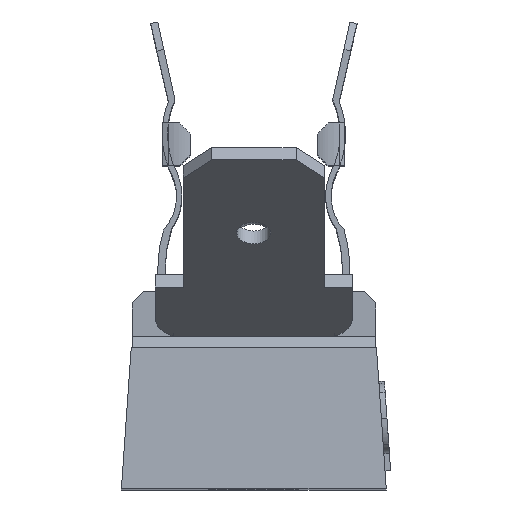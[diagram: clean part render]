
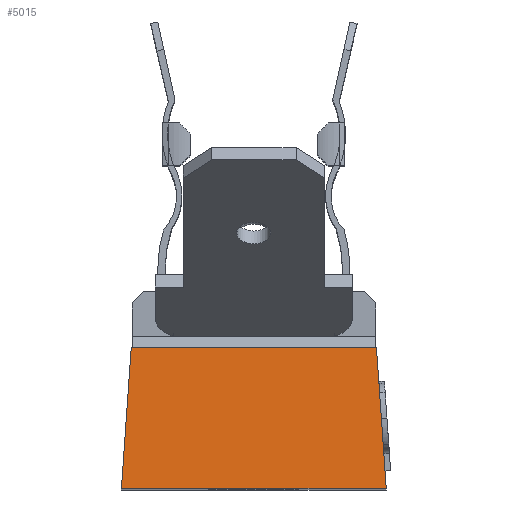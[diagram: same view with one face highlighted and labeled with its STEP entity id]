
A CAD part, top view. The second image highlights one B-rep face of the part: STEP entity #5015.
In plain terms, the highlighted planar face has unit normal (0, 0.07, 0.998).
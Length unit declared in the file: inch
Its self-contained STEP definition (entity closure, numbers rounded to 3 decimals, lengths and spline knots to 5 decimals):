
#614=FACE_OUTER_BOUND('',#907,.T.);
#907=EDGE_LOOP('',(#4137,#4138,#4139,#4140));
#1297=LINE('',#8593,#1787);
#1328=LINE('',#8686,#1818);
#1329=LINE('',#8688,#1819);
#1339=LINE('',#8719,#1829);
#1787=VECTOR('',#5985,0.3937);
#1818=VECTOR('',#6074,0.3937);
#1819=VECTOR('',#6077,0.3937);
#1829=VECTOR('',#6119,0.3937);
#2279=VERTEX_POINT('',#8589);
#2281=VERTEX_POINT('',#8592);
#2299=VERTEX_POINT('',#8640);
#2314=VERTEX_POINT('',#8684);
#2892=EDGE_CURVE('',#2281,#2279,#1297,.T.);
#2939=EDGE_CURVE('',#2314,#2299,#1328,.T.);
#2940=EDGE_CURVE('',#2299,#2279,#1329,.T.);
#2954=EDGE_CURVE('',#2314,#2281,#1339,.T.);
#4137=ORIENTED_EDGE('',*,*,#2940,.F.);
#4138=ORIENTED_EDGE('',*,*,#2939,.F.);
#4139=ORIENTED_EDGE('',*,*,#2954,.T.);
#4140=ORIENTED_EDGE('',*,*,#2892,.T.);
#4772=PLANE('',#5356);
#5015=ADVANCED_FACE('',(#614),#4772,.T.);
#5356=AXIS2_PLACEMENT_3D('',#8718,#6117,#6118);
#5985=DIRECTION('',(-0.07,0.995,-0.07));
#6074=DIRECTION('',(0.07,0.995,-0.07));
#6077=DIRECTION('',(1.,0.,0.));
#6117=DIRECTION('center_axis',(0.,0.07,0.998));
#6118=DIRECTION('ref_axis',(1.,0.,0.));
#6119=DIRECTION('',(1.,0.,0.));
#8589=CARTESIAN_POINT('',(0.21751,0.25005,0.80751));
#8592=CARTESIAN_POINT('',(0.235,0.,0.825));
#8593=CARTESIAN_POINT('',(0.23101,0.05713,0.82101));
#8640=CARTESIAN_POINT('',(-0.21751,0.25005,0.80751));
#8684=CARTESIAN_POINT('',(-0.235,0.,0.825));
#8686=CARTESIAN_POINT('',(-0.23386,0.01627,0.82386));
#8688=CARTESIAN_POINT('',(0.1175,0.25005,0.80751));
#8718=CARTESIAN_POINT('Origin',(0.235,0.,0.825));
#8719=CARTESIAN_POINT('',(-0.235,0.,0.825));
